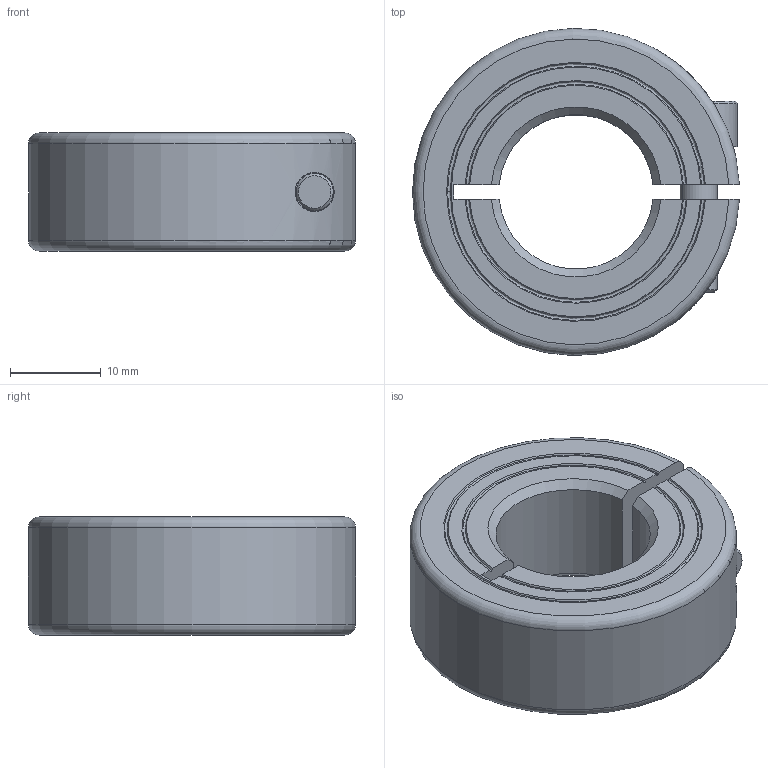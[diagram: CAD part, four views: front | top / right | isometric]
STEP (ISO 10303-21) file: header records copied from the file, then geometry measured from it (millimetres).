
FILE_DESCRIPTION((''),'2;1');
FILE_NAME('MCL-17-F','2016-09-08T',('SYSTEM'),(''),'PRO/ENGINEER BY PARAMETRIC TECHNOLOGY CORPORATION, 2015110','PRO/ENGINEER BY PARAMETRIC TECHNOLOGY CORPORATION, 2015110','');
FILE_SCHEMA(('AUTOMOTIVE_DESIGN { 1 0 10303 214 1 1 1 1 }'));
Length unit declared in the file: inch
Products named in the file (1): MCL-17-F
Bounding box: 35.98 x 35.99 x 13 mm (x, y, z)
Volume: 9653.5 mm3; surface area: 4588.8 mm2
Topology: 1 solids, 1 shells, 57 faces, 149 edges, 98 vertices
Faces by surface type: plane 22, cone 15, cylinder 14, torus 6
Entity records: 2359 total; most frequent: CARTESIAN_POINT 503, ORIENTED_EDGE 298, DIRECTION 282, EDGE_CURVE 149, AXIS2_PLACEMENT_3D 111, VERTEX_POINT 98, EDGE_LOOP 63, VECTOR 60
